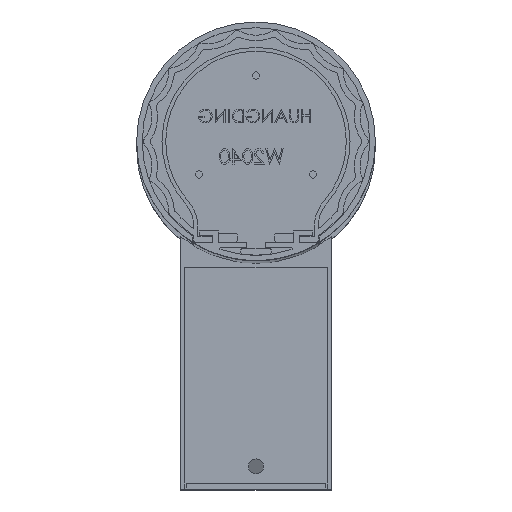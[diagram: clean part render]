
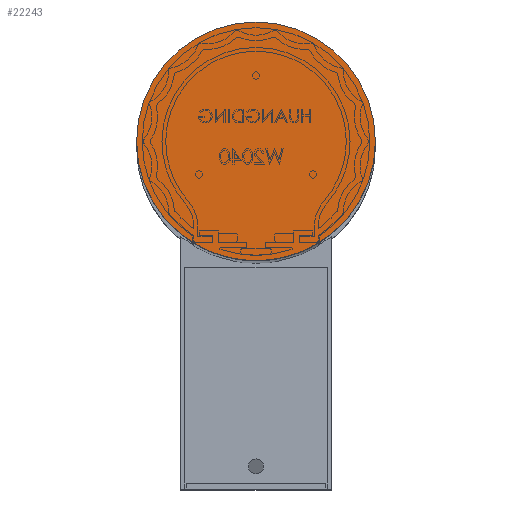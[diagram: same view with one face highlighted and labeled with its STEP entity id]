
A CAD part, top view. The second image highlights one B-rep face of the part: STEP entity #22243.
In plain terms, the highlighted planar face has unit normal (0, 0, 1) as drawn and (0, 0, -1) by its records, which use the part's own axes.
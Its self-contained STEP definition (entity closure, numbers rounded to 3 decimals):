
#882 = ORIENTED_EDGE ( 'NONE', *, *, #9312, .F. ) ;
#1591 = CARTESIAN_POINT ( 'NONE',  ( 0., 0., 0. ) ) ;
#2910 = ORIENTED_EDGE ( 'NONE', *, *, #12472, .F. ) ;
#3866 = DIRECTION ( 'NONE',  ( 0., 0., 1. ) ) ;
#4523 = AXIS2_PLACEMENT_3D ( 'NONE', #19866, #3866, #10997 ) ;
#5736 = DIRECTION ( 'NONE',  ( 0., 0., 1. ) ) ;
#6469 = AXIS2_PLACEMENT_3D ( 'NONE', #1591, #12107, #21651 ) ;
#7100 = VERTEX_POINT ( 'NONE', #15760 ) ;
#7209 = CIRCLE ( 'NONE', #6469, 31.75 ) ;
#7372 = CARTESIAN_POINT ( 'NONE',  ( 0., 0., 0. ) ) ;
#8822 = CARTESIAN_POINT ( 'NONE',  ( 31.75, 0., 0. ) ) ;
#9312 = EDGE_CURVE ( 'NONE', #7100, #14107, #20173, .T. ) ;
#10997 = DIRECTION ( 'NONE',  ( 1., 0., 0. ) ) ;
#12107 = DIRECTION ( 'NONE',  ( 0., 0., 1. ) ) ;
#12472 = EDGE_CURVE ( 'NONE', #14107, #7100, #7209, .T. ) ;
#14107 = VERTEX_POINT ( 'NONE', #8822 ) ;
#14606 = FACE_OUTER_BOUND ( 'NONE', #22740, .T. ) ;
#15760 = CARTESIAN_POINT ( 'NONE',  ( -31.75, 0., 0. ) ) ;
#19866 = CARTESIAN_POINT ( 'NONE',  ( 0., 0., 0. ) ) ;
#19972 = DIRECTION ( 'NONE',  ( 1., 0., 0. ) ) ;
#20173 = CIRCLE ( 'NONE', #4523, 31.75 ) ;
#21651 = DIRECTION ( 'NONE',  ( 1., 0., 0. ) ) ;
#21735 = PLANE ( 'NONE',  #22091 ) ;
#22091 = AXIS2_PLACEMENT_3D ( 'NONE', #7372, #5736, #19972 ) ;
#22243 = ADVANCED_FACE ( 'NONE', ( #14606 ), #21735, .F. ) ;
#22740 = EDGE_LOOP ( 'NONE', ( #882, #2910 ) ) ;
